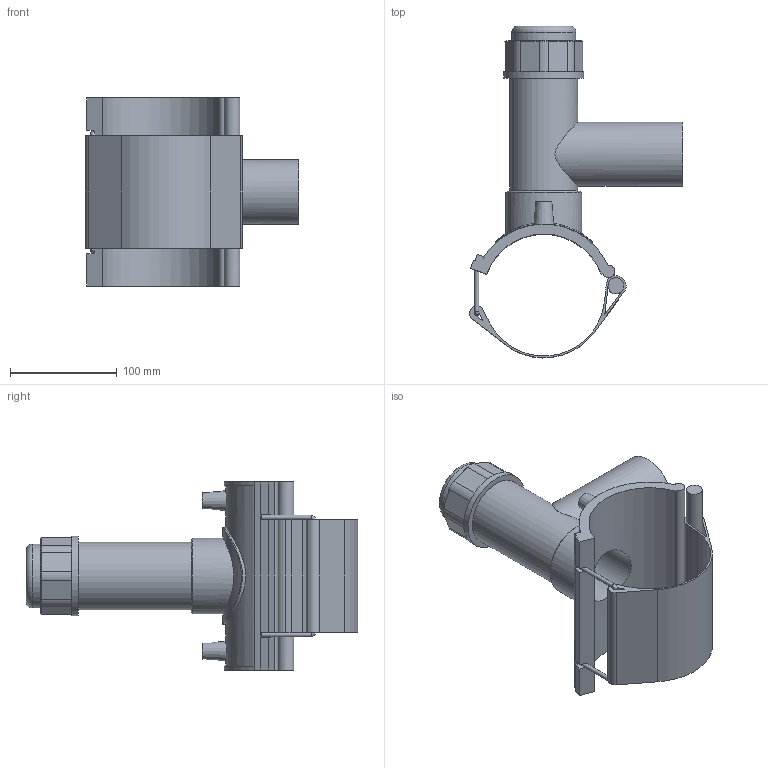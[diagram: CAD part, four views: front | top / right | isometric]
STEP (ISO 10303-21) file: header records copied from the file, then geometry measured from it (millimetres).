
FILE_DESCRIPTION(/* description */ ('PLASSON HIGH VOLUME TAPPING TEE 4''''IPSx 2''''IPS'),/* implementation_level */ '2;1');
FILE_NAME(/* name */ 'C:\Dropbox\KIMPROJECTS-Inventor 2019\99-16-3568-Processing Inch\ASTM ElectroFusion 2021\5913B\5913BB03040020.ipt.stp',/* time_stamp */ '2021-08-30T09:50:28+03:00',/* author */ ('KIM'),/* organization */ (''),/* preprocessor_version */ 'ST-DEVELOPER v17.2',/* originating_system */ 'Autodesk Inventor 2019',/* authorisation */ '');
FILE_SCHEMA (('AUTOMOTIVE_DESIGN { 1 0 10303 214 3 1 1 }'));
Length unit declared in the file: millimetre
Products named in the file (1): 5913BB03040020
Bounding box: 199.37 x 310.62 x 176.02 mm (x, y, z)
Volume: 791860.3 mm3; surface area: 228995.7 mm2
Topology: 1 solids, 1 shells, 126 faces, 333 edges, 210 vertices
Faces by surface type: plane 69, cylinder 42, cone 11, bspline 3, torus 1
Full cylindrical faces by diameter (mm): 4 x2, 4.108 x2, 10 x2, 14.833 x1, 48.08 x1, 52.395 x1, 59.88 x1, 60.1 x1, 63.622 x1, 71.107 x1, 74.85 x1, 91.28 x1
Entity records: 4580 total; most frequent: CARTESIAN_POINT 1344, DIRECTION 678, ORIENTED_EDGE 664, EDGE_CURVE 332, AXIS2_PLACEMENT_3D 245, VERTEX_POINT 210, LINE 188, VECTOR 188
